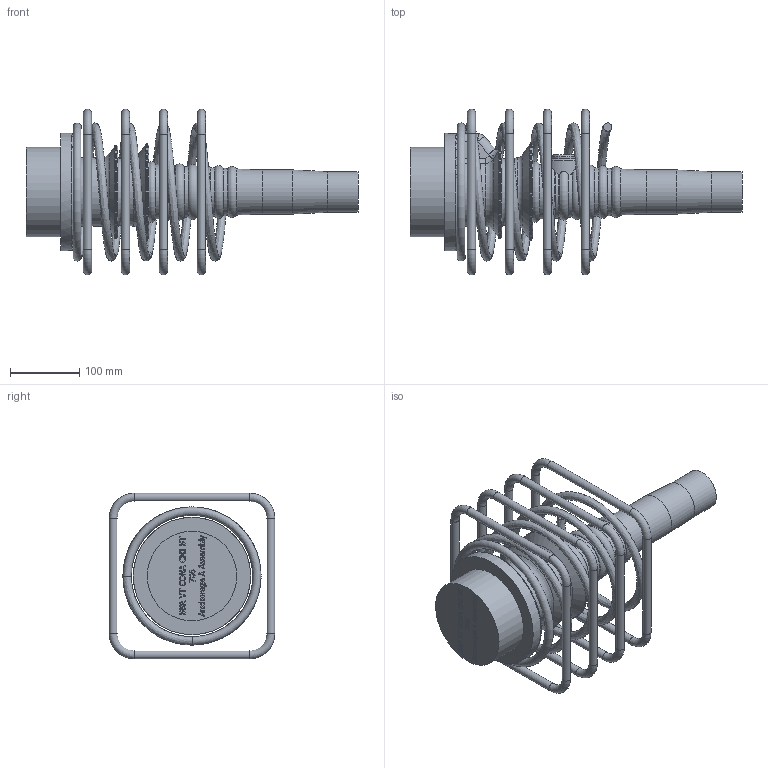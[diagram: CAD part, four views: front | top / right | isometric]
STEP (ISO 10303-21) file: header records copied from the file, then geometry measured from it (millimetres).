
FILE_DESCRIPTION(/* description */ (''),/* implementation_level */ '2;1');
FILE_NAME(/* name */ 'Z:\04 Publications\05 Give-out\BBR\6_3D_Models\BBR VT CONA CMI\BBR VT CONA CMI BT\00706\BBR VT CONA CMI BT 706_Anchorage A Assembly_CS-34,28.stp',/* time_stamp */ '2017-05-04T16:41:18+02:00',/* author */ ('IP'),/* organization */ (''),/* preprocessor_version */ 'ST-DEVELOPER v16.1',/* originating_system */ 'Autodesk Inventor 2016',/* authorisation */ '');
FILE_SCHEMA (('AUTOMOTIVE_DESIGN { 1 0 10303 214 3 1 1 }'));
Length unit declared in the file: millimetre
Products named in the file (1): BBR VT CONA CMI BT 706_Anchorage A Assembly_CS-34,28
Bounding box: 480.94 x 240 x 240 mm (x, y, z)
Volume: 4021816.4 mm3; surface area: 442160.9 mm2
Topology: 6 solids, 6 shells, 723 faces, 1870 edges, 1203 vertices
Faces by surface type: plane 314, bspline 300, torus 55, cylinder 33, sphere 12, cone 9
Full cylindrical faces by diameter (mm): 12 x16, 34 x1, 57 x1, 59 x1, 64 x1, 130 x1, 133.801 x1, 139.387 x1, 170 x1
Entity records: 26530 total; most frequent: CARTESIAN_POINT 10438, ORIENTED_EDGE 3574, DIRECTION 2204, EDGE_CURVE 1787, VERTEX_POINT 1196, LINE 1028, VECTOR 1028, EDGE_LOOP 851
